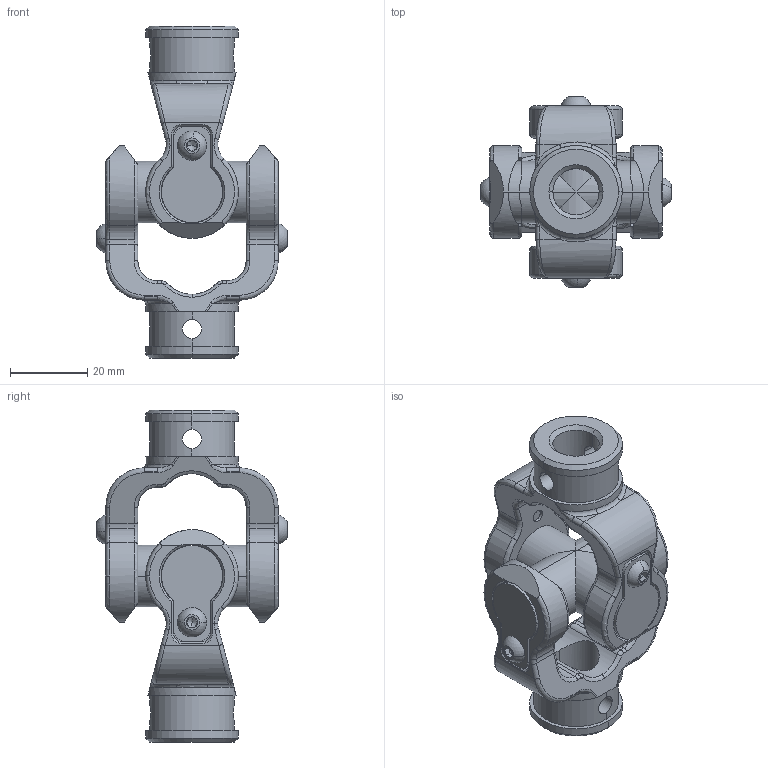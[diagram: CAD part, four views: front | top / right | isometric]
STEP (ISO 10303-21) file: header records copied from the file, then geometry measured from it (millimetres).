
FILE_DESCRIPTION (( 'STEP AP203' ), '1' );
FILE_NAME ('HJ-S-01.STEP', '2022-04-08T08:31:42', ( 'Windows 蚚誧' ), ( '' ), 'SwSTEP 2.0', 'SolidWorks 2020', '' );
FILE_SCHEMA (( 'CONFIG_CONTROL_DESIGN' ));
Length unit declared in the file: millimetre
Products named in the file (1): HJ-S-01
Bounding box: 49.4 x 49.4 x 86 mm (x, y, z)
Surface area: 18797.8 mm2 (no closed solid volume)
Topology: 0 solids, 15 shells, 426 faces, 1136 edges, 700 vertices
Faces by surface type: cylinder 154, plane 94, cone 76, bspline 50, torus 44, sphere 8
Entity records: 15345 total; most frequent: CARTESIAN_POINT 5253, DIRECTION 2114, ORIENTED_EDGE 2092, EDGE_CURVE 1128, AXIS2_PLACEMENT_3D 861, VERTEX_POINT 700, CIRCLE 484, EDGE_LOOP 446
